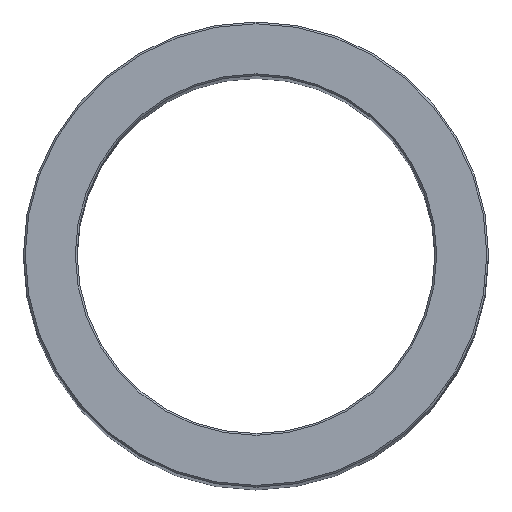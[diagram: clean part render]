
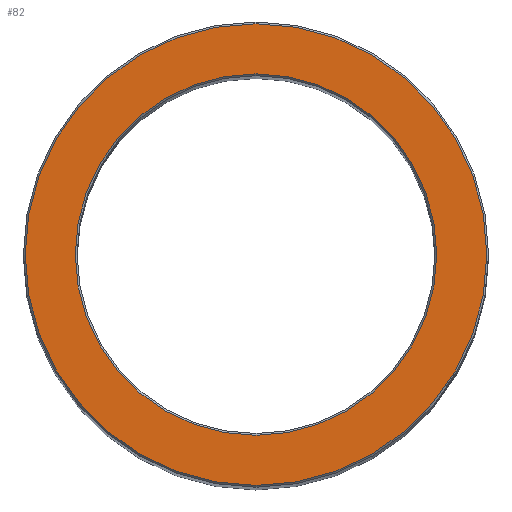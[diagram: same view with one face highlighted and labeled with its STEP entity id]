
A CAD part, top view. The second image highlights one B-rep face of the part: STEP entity #82.
In plain terms, the highlighted planar face has unit normal (0, 0, 1).
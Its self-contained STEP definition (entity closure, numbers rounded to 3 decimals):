
#82=ADVANCED_FACE('',(#105,#106),#107,.T.);
#105=FACE_OUTER_BOUND('',#129,.T.);
#106=FACE_BOUND('',#130,.T.);
#107=PLANE('',#131);
#129=EDGE_LOOP('',(#167));
#130=EDGE_LOOP('',(#168));
#131=AXIS2_PLACEMENT_3D('',#169,#170,#171);
#167=ORIENTED_EDGE('',*,*,#179,.T.);
#168=ORIENTED_EDGE('',*,*,#172,.T.);
#169=CARTESIAN_POINT('',(0.0,0.0,180.0));
#170=DIRECTION('',(0.0,0.0,1.0));
#171=DIRECTION('',(1.0,0.0,0.0));
#172=EDGE_CURVE('',#180,#180,#181,.F.);
#179=EDGE_CURVE('',#194,#194,#195,.T.);
#180=VERTEX_POINT('',#196);
#181=CIRCLE('',#197,20.2);
#194=VERTEX_POINT('',#210);
#195=CIRCLE('',#211,25.8);
#196=CARTESIAN_POINT('',(20.2,0.,180.0));
#197=AXIS2_PLACEMENT_3D('',#212,#213,#214);
#210=CARTESIAN_POINT('',(25.8,0.0,180.0));
#211=AXIS2_PLACEMENT_3D('',#233,#234,#235);
#212=CARTESIAN_POINT('',(0.0,0.0,180.0));
#213=DIRECTION('',(0.0,0.0,1.0));
#214=DIRECTION('',(1.0,0.0,0.0));
#233=CARTESIAN_POINT('',(0.0,0.0,180.0));
#234=DIRECTION('',(0.0,0.0,1.0));
#235=DIRECTION('',(1.0,0.0,0.0));
